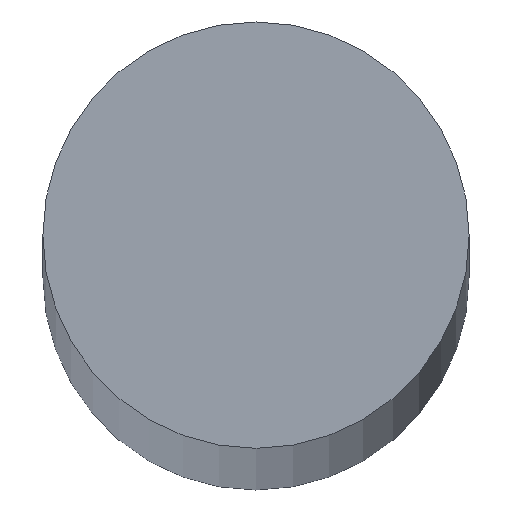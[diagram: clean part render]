
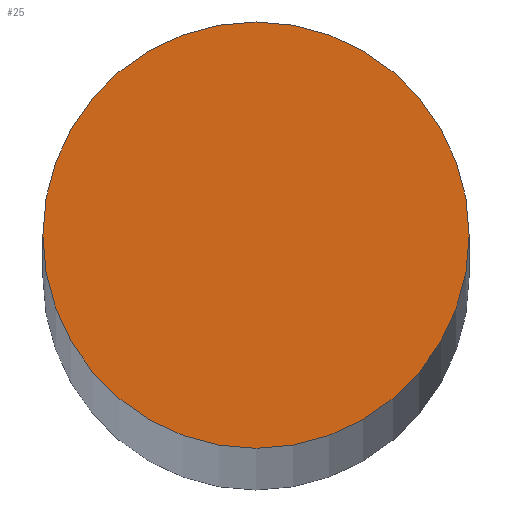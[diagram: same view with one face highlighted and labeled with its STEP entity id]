
A CAD part, top view. The second image highlights one B-rep face of the part: STEP entity #25.
In plain terms, the highlighted planar face has unit normal (0, 0, 1).
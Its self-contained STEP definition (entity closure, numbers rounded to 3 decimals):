
#2 = AXIS2_PLACEMENT_3D ( 'NONE', #107, #110, #111 ) ;
#8 = AXIS2_PLACEMENT_3D ( 'NONE', #92, #95, #96 ) ;
#9 = AXIS2_PLACEMENT_3D ( 'NONE', #97, #99, #100 ) ;
#16 = EDGE_CURVE ( 'NONE', #82, #80, #55, .T. ) ;
#17 = EDGE_CURVE ( 'NONE', #80, #82, #56, .T. ) ;
#25 = ADVANCED_FACE ( 'NONE', ( #54 ), #108, .T. ) ;
#34 = EDGE_LOOP ( 'NONE', ( #42, #41 ) ) ;
#41 = ORIENTED_EDGE ( 'NONE', *, *, #17, .T. ) ;
#42 = ORIENTED_EDGE ( 'NONE', *, *, #16, .T. ) ;
#54 = FACE_OUTER_BOUND ( 'NONE', #34, .T. ) ;
#55 = CIRCLE ( 'NONE', #8, 6. ) ;
#56 = CIRCLE ( 'NONE', #9, 6. ) ;
#80 = VERTEX_POINT ( 'NONE', #116 ) ;
#82 = VERTEX_POINT ( 'NONE', #112 ) ;
#92 = CARTESIAN_POINT ( 'NONE',  ( 0., 0., 336. ) ) ;
#95 = DIRECTION ( 'NONE',  ( 0., 0., 1. ) ) ;
#96 = DIRECTION ( 'NONE',  ( 1., 0., 0. ) ) ;
#97 = CARTESIAN_POINT ( 'NONE',  ( 0., 0., 336. ) ) ;
#99 = DIRECTION ( 'NONE',  ( 0., 0., 1. ) ) ;
#100 = DIRECTION ( 'NONE',  ( 1., 0., 0. ) ) ;
#107 = CARTESIAN_POINT ( 'NONE',  ( 0., 0., 336. ) ) ;
#108 = PLANE ( 'NONE',  #2 ) ;
#110 = DIRECTION ( 'NONE',  ( 0., 0., 1. ) ) ;
#111 = DIRECTION ( 'NONE',  ( 1., 0., 0. ) ) ;
#112 = CARTESIAN_POINT ( 'NONE',  ( -6., 0., 336. ) ) ;
#116 = CARTESIAN_POINT ( 'NONE',  ( 6., 0., 336. ) ) ;
